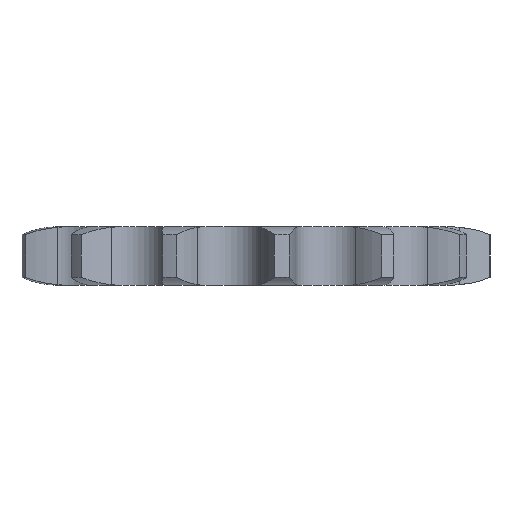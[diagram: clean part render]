
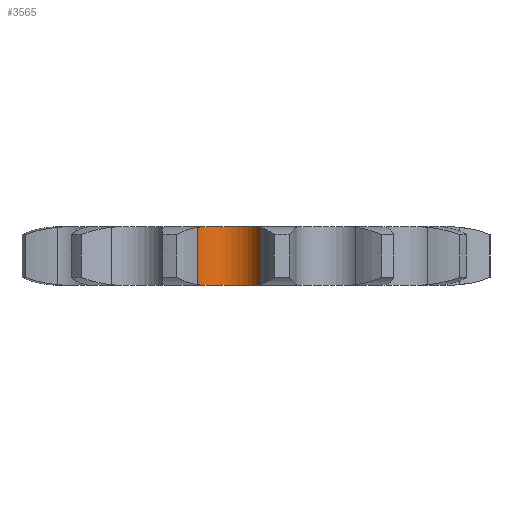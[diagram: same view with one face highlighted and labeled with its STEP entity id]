
A CAD part, left-side view. The second image highlights one B-rep face of the part: STEP entity #3565.
In plain terms, the highlighted cylindrical face has radius 3.207 mm (diameter 6.413 mm), a partial arc.
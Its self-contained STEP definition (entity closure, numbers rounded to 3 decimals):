
#178=CARTESIAN_POINT('',(-19.755,2.399,2.65));
#179=DIRECTION('',(0.,0.,1.));
#180=DIRECTION('',(0.572,-0.82,0.));
#181=AXIS2_PLACEMENT_3D('',#178,#179,#180);
#758=CARTESIAN_POINT('',(-19.755,2.399,-2.65));
#759=DIRECTION('',(0.,0.,1.));
#760=DIRECTION('',(0.572,-0.82,0.));
#761=AXIS2_PLACEMENT_3D('',#758,#759,#760);
#1401=DIRECTION('',(0.,0.,-1.));
#1402=VECTOR('',#1401,5.224);
#1403=CARTESIAN_POINT('',(-18.06,5.12,2.612));
#1404=LINE('',#1403,#1402);
#1420=CARTESIAN_POINT('',(-18.76,-0.65,
2.612));
#1421=CARTESIAN_POINT('',(-18.657,-0.616,
2.621));
#1422=CARTESIAN_POINT('',(-18.457,-0.539,
2.636));
#1423=CARTESIAN_POINT('',(-18.176,-0.398,
2.648));
#1424=CARTESIAN_POINT('',(-18.004,-0.289,2.65));
#1425=CARTESIAN_POINT('',(-17.921,-0.231,2.65));
#1430=DIRECTION('',(0.,0.,-1.));
#1431=VECTOR('',#1430,5.224);
#1432=CARTESIAN_POINT('',(-18.76,-0.65,
2.612));
#1433=LINE('',#1432,#1431);
#1437=CARTESIAN_POINT('',(-17.921,-0.231,-2.65));
#1438=CARTESIAN_POINT('',(-18.004,-0.289,-2.65));
#1439=CARTESIAN_POINT('',(-18.177,-0.398,
-2.648));
#1440=CARTESIAN_POINT('',(-18.457,-0.539,
-2.636));
#1441=CARTESIAN_POINT('',(-18.658,-0.616,
-2.621));
#1442=CARTESIAN_POINT('',(-18.76,-0.65,
-2.612));
#1447=CARTESIAN_POINT('',(-18.06,5.12,
-2.612));
#1448=CARTESIAN_POINT('',(-17.968,5.063,
-2.621));
#1449=CARTESIAN_POINT('',(-17.792,4.941,
-2.636));
#1450=CARTESIAN_POINT('',(-17.553,4.737,
-2.648));
#1451=CARTESIAN_POINT('',(-17.411,4.589,-2.65));
#1452=CARTESIAN_POINT('',(-17.345,4.513,-2.65));
#1457=CARTESIAN_POINT('',(-17.345,4.513,2.65));
#1458=CARTESIAN_POINT('',(-17.411,4.589,2.65));
#1459=CARTESIAN_POINT('',(-17.553,4.736,2.648));
#1460=CARTESIAN_POINT('',(-17.792,4.941,2.636));
#1461=CARTESIAN_POINT('',(-17.968,5.063,2.621));
#1462=CARTESIAN_POINT('',(-18.06,5.12,2.612));
#2221=CARTESIAN_POINT('',(-17.921,-0.231,2.65));
#2223=VERTEX_POINT('',#2221);
#2249=CARTESIAN_POINT('',(-17.921,-0.231,-2.65));
#2251=VERTEX_POINT('',#2249);
#2318=CARTESIAN_POINT('',(-17.345,4.513,2.65));
#2320=VERTEX_POINT('',#2318);
#2330=CARTESIAN_POINT('',(-17.345,4.513,-2.65));
#2332=VERTEX_POINT('',#2330);
#2356=VERTEX_POINT('',#1420);
#2357=VERTEX_POINT('',#1442);
#2358=CARTESIAN_POINT('',(-18.06,5.12,2.612));
#2359=CARTESIAN_POINT('',(-18.06,5.12,
-2.612));
#2360=VERTEX_POINT('',#2358);
#2361=VERTEX_POINT('',#2359);
#3549=CARTESIAN_POINT('',(-19.755,2.399,3.18));
#3550=DIRECTION('',(0.,0.,1.));
#3551=DIRECTION('',(0.121,0.993,0.));
#3552=AXIS2_PLACEMENT_3D('',#3549,#3550,#3551);
#3553=CYLINDRICAL_SURFACE('',#3552,3.207);
#3554=ORIENTED_EDGE('',*,*,#2551,.F.);
#3556=ORIENTED_EDGE('',*,*,#3555,.T.);
#3557=ORIENTED_EDGE('',*,*,#2954,.F.);
#3558=ORIENTED_EDGE('',*,*,#3249,.T.);
#3559=ORIENTED_EDGE('',*,*,#3180,.F.);
#3560=ORIENTED_EDGE('',*,*,#3543,.F.);
#3561=ORIENTED_EDGE('',*,*,#2782,.F.);
#3562=ORIENTED_EDGE('',*,*,#2519,.F.);
#3563=EDGE_LOOP('',(#3554,#3556,#3557,#3558,#3559,#3560,#3561,#3562));
#3564=FACE_OUTER_BOUND('',#3563,.F.);
#3565=ADVANCED_FACE('',(#3564),#3553,.F.);
#182=CIRCLE('',#181,3.207);
#762=CIRCLE('',#761,3.207);
#1426=B_SPLINE_CURVE_WITH_KNOTS('',3,(#1420,#1421,#1422,#1423,#1424,#1425),
.UNSPECIFIED.,.F.,.F.,(4,1,1,4),(0.,0.333,0.667,1.),
.UNSPECIFIED.);
#1443=B_SPLINE_CURVE_WITH_KNOTS('',3,(#1437,#1438,#1439,#1440,#1441,#1442),
.UNSPECIFIED.,.F.,.F.,(4,1,1,4),(0.,0.333,0.667,1.),
.UNSPECIFIED.);
#1453=B_SPLINE_CURVE_WITH_KNOTS('',3,(#1447,#1448,#1449,#1450,#1451,#1452),
.UNSPECIFIED.,.F.,.F.,(4,1,1,4),(0.,0.333,0.667,1.),
.UNSPECIFIED.);
#1463=B_SPLINE_CURVE_WITH_KNOTS('',3,(#1457,#1458,#1459,#1460,#1461,#1462),
.UNSPECIFIED.,.F.,.F.,(4,1,1,4),(0.,0.333,0.667,1.),
.UNSPECIFIED.);
#2519=EDGE_CURVE('',#2223,#2320,#182,.T.);
#2551=EDGE_CURVE('',#2356,#2223,#1426,.T.);
#2782=EDGE_CURVE('',#2320,#2360,#1463,.T.);
#2954=EDGE_CURVE('',#2251,#2357,#1443,.T.);
#3180=EDGE_CURVE('',#2361,#2332,#1453,.T.);
#3249=EDGE_CURVE('',#2251,#2332,#762,.T.);
#3543=EDGE_CURVE('',#2360,#2361,#1404,.T.);
#3555=EDGE_CURVE('',#2356,#2357,#1433,.T.);
